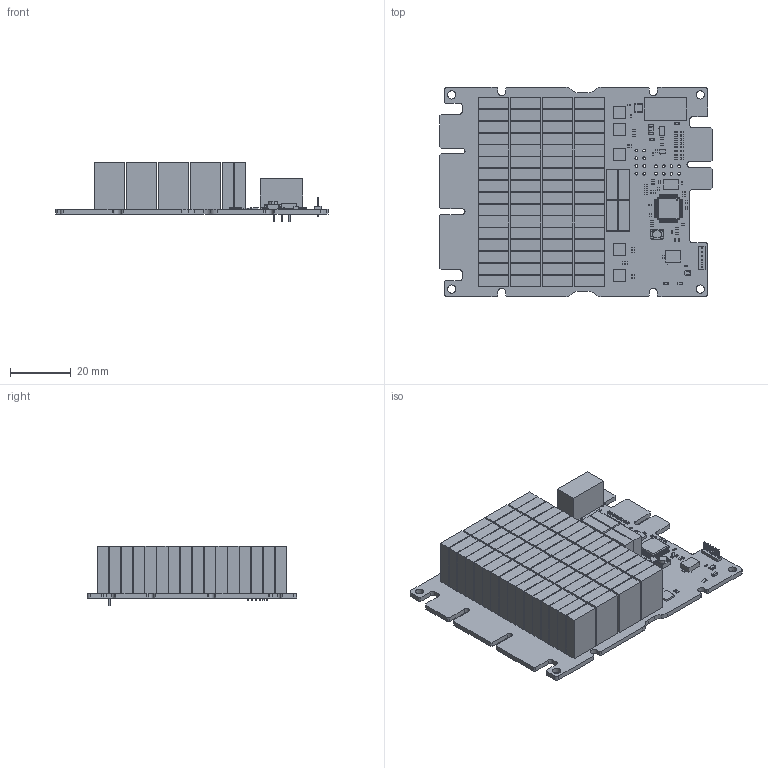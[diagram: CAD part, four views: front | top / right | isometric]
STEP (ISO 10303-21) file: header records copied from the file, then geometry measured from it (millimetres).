
FILE_DESCRIPTION(('Open CASCADE Model'),'2;1');
FILE_NAME('Open CASCADE Shape Model','2026-08-19T15:10:39',('Author'),( 'Open CASCADE'),'Open CASCADE STEP processor 7.5','Open CASCADE 7.5' ,'Unknown');
FILE_SCHEMA(('AUTOMOTIVE_DESIGN { 1 0 10303 214 1 1 1 1 }'));
Length unit declared in the file: millimetre
Products named in the file (297): Open CASCADE STEP translator 7.5 4105; Open CASCADE STEP translator 7.5 4106; Open CASCADE STEP translator 7.5 4107; Open CASCADE STEP translator 7.5 4108; Open CASCADE STEP translator 7.5 4109; Open CASCADE STEP translator 7.5 4110; Open CASCADE STEP translator 7.5 4111; Open CASCADE STEP translator 7.5 4112; Open CASCADE STEP translator 7.5 4113; Open CASCADE STEP translator 7.5 4114; Open CASCADE STEP translator 7.5 4115; Open CASCADE STEP translator 7.5 4116; Open CASCADE STEP translator 7.5 4117; Open CASCADE STEP translator 7.5 4118; Open CASCADE STEP translator 7.5 4119; Open CASCADE STEP translator 7.5 4120; Open CASCADE STEP translator 7.5 4121; Open CASCADE STEP translator 7.5 4122; Open CASCADE STEP translator 7.5 4123; Open CASCADE STEP translator 7.5 4124; Open CASCADE STEP translator 7.5 4125; Open CASCADE STEP translator 7.5 4126; Open CASCADE STEP translator 7.5 4127; Open CASCADE STEP translator 7.5 4128; Open CASCADE STEP translator 7.5 4129; Open CASCADE STEP translator 7.5 4130; Open CASCADE STEP translator 7.5 4131; Open CASCADE STEP translator 7.5 4132; Open CASCADE STEP translator 7.5 4133; Open CASCADE STEP translator 7.5 4134; Open CASCADE STEP translator 7.5 4135; Open CASCADE STEP translator 7.5 4136; Open CASCADE STEP translator 7.5 4137; Open CASCADE STEP translator 7.5 4138; Open CASCADE STEP translator 7.5 4139; Open CASCADE STEP translator 7.5 4140; Open CASCADE STEP translator 7.5 4141; Open CASCADE STEP translator 7.5 4142; Open CASCADE STEP translator 7.5 4143; Open CASCADE STEP translator 7.5 4144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
Bounding box: 90 x 69 x 19.6 mm (x, y, z)
Volume: 48830.8 mm3; surface area: 48941.3 mm2
Topology: 364 solids, 364 shells, 3698 faces, 8735 edges, 5778 vertices
Faces by surface type: plane 2892, cylinder 766, sphere 24, torus 8, bspline 4, cone 4
Full cylindrical faces by diameter (mm): 0.08 x1, 0.289 x1, 0.3 x6, 0.5 x3, 0.6 x6, 0.75 x408, 0.9 x16, 0.94 x3, 1.4 x1, 1.6 x2, 2.7 x4
Entity records: 117307 total; most frequent: CARTESIAN_POINT 18295, DIRECTION 17650, ORIENTED_EDGE 17470, EDGE_CURVE 8735, LINE 7180, VECTOR 7180, VERTEX_POINT 5778, AXIS2_PLACEMENT_3D 5235
